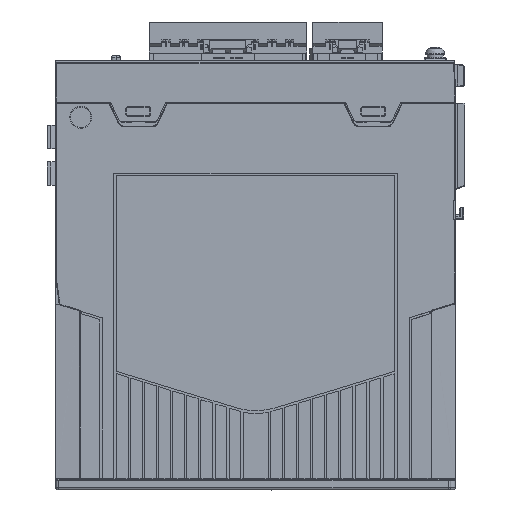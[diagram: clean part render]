
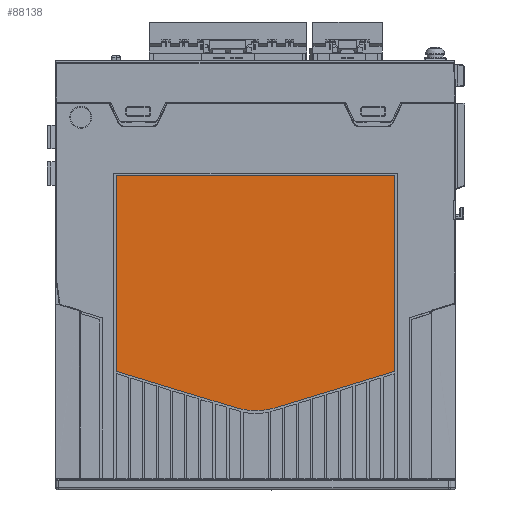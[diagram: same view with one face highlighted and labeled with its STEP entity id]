
A CAD part, left-side view. The second image highlights one B-rep face of the part: STEP entity #88138.
In plain terms, the highlighted planar face has unit normal (-1, 0, 0).
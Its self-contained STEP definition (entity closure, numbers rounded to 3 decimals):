
#41907=CARTESIAN_POINT('',(-55.9,16.002,-114.203));
#41908=DIRECTION('',(1.,0.,0.));
#41909=DIRECTION('',(0.,-1.,0.));
#41910=AXIS2_PLACEMENT_3D('',#41907,#41908,#41909);
#41912=DIRECTION('',(0.,0.956,-0.292));
#41913=VECTOR('',#41912,52.616);
#41914=CARTESIAN_POINT('',(-55.9,15.914,-114.49));
#41915=LINE('',#41914,#41913);
#41916=CARTESIAN_POINT('',(-55.9,75.002,-101.184));
#41917=DIRECTION('',(1.,0.,0.));
#41918=DIRECTION('',(0.,-0.292,-0.956));
#41919=AXIS2_PLACEMENT_3D('',#41916,#41917,#41918);
#41921=CARTESIAN_POINT('',(-55.9,75.002,-101.184));
#41922=DIRECTION('',(1.,0.,0.));
#41923=DIRECTION('',(0.,0.,-1.));
#41924=AXIS2_PLACEMENT_3D('',#41921,#41922,#41923);
#41926=DIRECTION('',(0.,0.956,0.292));
#41927=VECTOR('',#41926,52.616);
#41928=CARTESIAN_POINT('',(-55.9,83.773,-129.874));
#41929=LINE('',#41928,#41927);
#41930=CARTESIAN_POINT('',(-55.9,134.002,-114.203));
#41931=DIRECTION('',(1.,0.,0.));
#41932=DIRECTION('',(0.,0.292,-0.956));
#41933=AXIS2_PLACEMENT_3D('',#41930,#41931,#41932);
#41935=CARTESIAN_POINT('',(-55.9,134.002,-31.465));
#41936=DIRECTION('',(1.,0.,0.));
#41937=DIRECTION('',(0.,1.,0.));
#41938=AXIS2_PLACEMENT_3D('',#41935,#41936,#41937);
#41940=CARTESIAN_POINT('',(-55.9,16.002,-31.465));
#41941=DIRECTION('',(1.,0.,0.));
#41942=DIRECTION('',(0.,0.,1.));
#41943=AXIS2_PLACEMENT_3D('',#41940,#41941,#41942);
#41965=DIRECTION('',(0.,0.,-1.));
#41966=VECTOR('',#41965,82.738);
#41967=CARTESIAN_POINT('',(-55.9,134.302,-31.465));
#41968=LINE('',#41967,#41966);
#41981=DIRECTION('',(0.,1.,0.));
#41982=VECTOR('',#41981,118.);
#41983=CARTESIAN_POINT('',(-55.9,16.002,-31.165));
#41984=LINE('',#41983,#41982);
#41993=DIRECTION('',(0.,0.,1.));
#41994=VECTOR('',#41993,82.738);
#41995=CARTESIAN_POINT('',(-55.9,15.702,-114.203));
#41996=LINE('',#41995,#41994);
#71732=CARTESIAN_POINT('',(-55.9,15.914,-114.49));
#71733=VERTEX_POINT('',#71732);
#71734=CARTESIAN_POINT('',(-55.9,15.702,-114.203));
#71735=VERTEX_POINT('',#71734);
#71736=CARTESIAN_POINT('',(-55.9,66.23,-129.874));
#71737=VERTEX_POINT('',#71736);
#71738=CARTESIAN_POINT('',(-55.9,75.002,-131.184));
#71739=VERTEX_POINT('',#71738);
#71740=CARTESIAN_POINT('',(-55.9,83.773,-129.874));
#71741=VERTEX_POINT('',#71740);
#71742=CARTESIAN_POINT('',(-55.9,134.089,-114.49));
#71743=VERTEX_POINT('',#71742);
#71744=CARTESIAN_POINT('',(-55.9,134.302,-114.203));
#71745=VERTEX_POINT('',#71744);
#71746=CARTESIAN_POINT('',(-55.9,134.302,-31.465));
#71747=VERTEX_POINT('',#71746);
#71748=CARTESIAN_POINT('',(-55.9,134.002,-31.165));
#71749=VERTEX_POINT('',#71748);
#71750=CARTESIAN_POINT('',(-55.9,16.002,-31.165));
#71751=VERTEX_POINT('',#71750);
#71752=CARTESIAN_POINT('',(-55.9,15.702,-31.465));
#71753=VERTEX_POINT('',#71752);
#88111=CARTESIAN_POINT('',(-55.9,75.002,-81.175));
#88112=DIRECTION('',(1.,0.,0.));
#88113=DIRECTION('',(0.,0.,1.));
#88114=AXIS2_PLACEMENT_3D('',#88111,#88112,#88113);
#88115=PLANE('',#88114);
#88116=ORIENTED_EDGE('',*,*,#88096,.T.);
#88117=ORIENTED_EDGE('',*,*,#88078,.T.);
#88119=ORIENTED_EDGE('',*,*,#88118,.T.);
#88121=ORIENTED_EDGE('',*,*,#88120,.T.);
#88123=ORIENTED_EDGE('',*,*,#88122,.T.);
#88125=ORIENTED_EDGE('',*,*,#88124,.T.);
#88127=ORIENTED_EDGE('',*,*,#88126,.F.);
#88129=ORIENTED_EDGE('',*,*,#88128,.T.);
#88131=ORIENTED_EDGE('',*,*,#88130,.F.);
#88133=ORIENTED_EDGE('',*,*,#88132,.T.);
#88135=ORIENTED_EDGE('',*,*,#88134,.F.);
#88136=EDGE_LOOP('',(#88116,#88117,#88119,#88121,#88123,#88125,#88127,#88129,
#88131,#88133,#88135));
#88137=FACE_OUTER_BOUND('',#88136,.F.);
#41911=CIRCLE('',#41910,0.3);
#41920=CIRCLE('',#41919,30.);
#41925=CIRCLE('',#41924,30.);
#41934=CIRCLE('',#41933,0.3);
#41939=CIRCLE('',#41938,0.3);
#41944=CIRCLE('',#41943,0.3);
#88078=EDGE_CURVE('',#71733,#71737,#41915,.T.);
#88096=EDGE_CURVE('',#71735,#71733,#41911,.T.);
#88118=EDGE_CURVE('',#71737,#71739,#41920,.T.);
#88120=EDGE_CURVE('',#71739,#71741,#41925,.T.);
#88122=EDGE_CURVE('',#71741,#71743,#41929,.T.);
#88124=EDGE_CURVE('',#71743,#71745,#41934,.T.);
#88126=EDGE_CURVE('',#71747,#71745,#41968,.T.);
#88128=EDGE_CURVE('',#71747,#71749,#41939,.T.);
#88130=EDGE_CURVE('',#71751,#71749,#41984,.T.);
#88132=EDGE_CURVE('',#71751,#71753,#41944,.T.);
#88134=EDGE_CURVE('',#71735,#71753,#41996,.T.);
#88138=ADVANCED_FACE('',(#88137),#88115,.F.);
